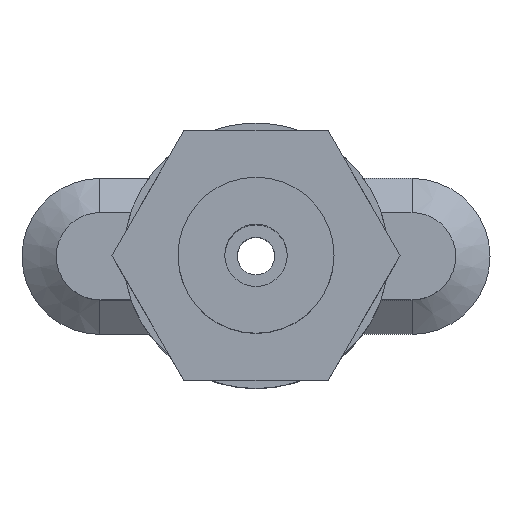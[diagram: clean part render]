
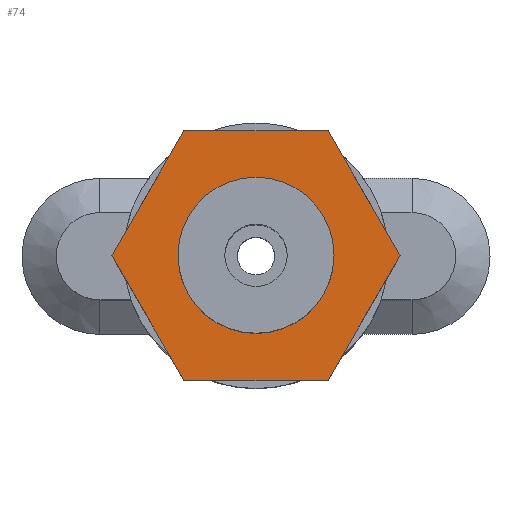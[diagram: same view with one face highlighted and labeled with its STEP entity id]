
A CAD part, top view. The second image highlights one B-rep face of the part: STEP entity #74.
In plain terms, the highlighted planar face has unit normal (0, 0, 1).
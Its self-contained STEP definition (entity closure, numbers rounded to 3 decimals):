
#61 = ORIENTED_EDGE ( 'NONE', *, *, #1548, .T. ) ;
#74 = ADVANCED_FACE ( 'NONE', ( #170, #912 ), #902, .T. ) ;
#91 = CARTESIAN_POINT ( 'NONE',  ( 2.309, 4., 0. ) ) ;
#109 = VECTOR ( 'NONE', #1404, 1000. ) ;
#167 = LINE ( 'NONE', #377, #545 ) ;
#170 = FACE_OUTER_BOUND ( 'NONE', #439, .T. ) ;
#214 = CARTESIAN_POINT ( 'NONE',  ( -2.309, -4., 0. ) ) ;
#258 = DIRECTION ( 'NONE',  ( 0., 0., -1. ) ) ;
#261 = CARTESIAN_POINT ( 'NONE',  ( 0., 0., 0. ) ) ;
#267 = CARTESIAN_POINT ( 'NONE',  ( -2.309, 4., 0. ) ) ;
#312 = ORIENTED_EDGE ( 'NONE', *, *, #393, .T. ) ;
#330 = CIRCLE ( 'NONE', #1302, 2.5 ) ;
#345 = DIRECTION ( 'NONE',  ( -1., 0., 0. ) ) ;
#377 = CARTESIAN_POINT ( 'NONE',  ( 2.309, -4., 0. ) ) ;
#393 = EDGE_CURVE ( 'NONE', #1029, #1363, #167, .T. ) ;
#410 = LINE ( 'NONE', #1479, #714 ) ;
#439 = EDGE_LOOP ( 'NONE', ( #718, #1649, #1310, #997, #312, #1596 ) ) ;
#480 = DIRECTION ( 'NONE',  ( 0.5, 0.866, 0. ) ) ;
#508 = DIRECTION ( 'NONE',  ( 0.5, -0.866, 0. ) ) ;
#536 = VERTEX_POINT ( 'NONE', #214 ) ;
#545 = VECTOR ( 'NONE', #480, 1000. ) ;
#552 = EDGE_CURVE ( 'NONE', #1582, #536, #791, .T. ) ;
#561 = VERTEX_POINT ( 'NONE', #1236 ) ;
#580 = EDGE_CURVE ( 'NONE', #561, #817, #330, .T. ) ;
#607 = VECTOR ( 'NONE', #1630, 1000. ) ;
#610 = CARTESIAN_POINT ( 'NONE',  ( 2.309, 4., 0. ) ) ;
#714 = VECTOR ( 'NONE', #1593, 1000. ) ;
#718 = ORIENTED_EDGE ( 'NONE', *, *, #741, .T. ) ;
#741 = EDGE_CURVE ( 'NONE', #848, #1261, #1015, .T. ) ;
#791 = LINE ( 'NONE', #1335, #1654 ) ;
#794 = ORIENTED_EDGE ( 'NONE', *, *, #580, .T. ) ;
#817 = VERTEX_POINT ( 'NONE', #1620 ) ;
#821 = CARTESIAN_POINT ( 'NONE',  ( 2.5, 0., 0. ) ) ;
#833 = LINE ( 'NONE', #1028, #109 ) ;
#848 = VERTEX_POINT ( 'NONE', #610 ) ;
#890 = DIRECTION ( 'NONE',  ( 0., 0., -1. ) ) ;
#900 = DIRECTION ( 'NONE',  ( 0., 1., 0. ) ) ;
#902 = PLANE ( 'NONE',  #1185 ) ;
#912 = FACE_BOUND ( 'NONE', #1182, .T. ) ;
#917 = DIRECTION ( 'NONE',  ( 1., 0., 0. ) ) ;
#929 = LINE ( 'NONE', #1499, #607 ) ;
#932 = EDGE_CURVE ( 'NONE', #536, #1029, #833, .T. ) ;
#980 = CARTESIAN_POINT ( 'NONE',  ( 0., 0., 0. ) ) ;
#994 = CARTESIAN_POINT ( 'NONE',  ( -4.619, 0., 0. ) ) ;
#997 = ORIENTED_EDGE ( 'NONE', *, *, #932, .T. ) ;
#1015 = LINE ( 'NONE', #91, #1173 ) ;
#1028 = CARTESIAN_POINT ( 'NONE',  ( -2.309, -4., 0. ) ) ;
#1029 = VERTEX_POINT ( 'NONE', #1069 ) ;
#1061 = EDGE_CURVE ( 'NONE', #1363, #848, #410, .T. ) ;
#1069 = CARTESIAN_POINT ( 'NONE',  ( 2.309, -4., 0. ) ) ;
#1173 = VECTOR ( 'NONE', #345, 1000. ) ;
#1175 = CIRCLE ( 'NONE', #1486, 2.5 ) ;
#1182 = EDGE_LOOP ( 'NONE', ( #61, #794 ) ) ;
#1185 = AXIS2_PLACEMENT_3D ( 'NONE', #821, #1198, #917 ) ;
#1198 = DIRECTION ( 'NONE',  ( 0., 0., 1. ) ) ;
#1236 = CARTESIAN_POINT ( 'NONE',  ( 0., -2.5, 0. ) ) ;
#1261 = VERTEX_POINT ( 'NONE', #267 ) ;
#1302 = AXIS2_PLACEMENT_3D ( 'NONE', #980, #890, #900 ) ;
#1310 = ORIENTED_EDGE ( 'NONE', *, *, #552, .T. ) ;
#1335 = CARTESIAN_POINT ( 'NONE',  ( -4.619, 0., 0. ) ) ;
#1362 = DIRECTION ( 'NONE',  ( 0., 1., 0. ) ) ;
#1363 = VERTEX_POINT ( 'NONE', #1382 ) ;
#1382 = CARTESIAN_POINT ( 'NONE',  ( 4.619, 0., 0. ) ) ;
#1404 = DIRECTION ( 'NONE',  ( 1., 0., 0. ) ) ;
#1477 = EDGE_CURVE ( 'NONE', #1261, #1582, #929, .T. ) ;
#1479 = CARTESIAN_POINT ( 'NONE',  ( 4.619, 0., 0. ) ) ;
#1486 = AXIS2_PLACEMENT_3D ( 'NONE', #261, #258, #1362 ) ;
#1499 = CARTESIAN_POINT ( 'NONE',  ( -2.309, 4., 0. ) ) ;
#1548 = EDGE_CURVE ( 'NONE', #817, #561, #1175, .T. ) ;
#1582 = VERTEX_POINT ( 'NONE', #994 ) ;
#1593 = DIRECTION ( 'NONE',  ( -0.5, 0.866, 0. ) ) ;
#1596 = ORIENTED_EDGE ( 'NONE', *, *, #1061, .T. ) ;
#1620 = CARTESIAN_POINT ( 'NONE',  ( 0., 2.5, 0. ) ) ;
#1630 = DIRECTION ( 'NONE',  ( -0.5, -0.866, 0. ) ) ;
#1649 = ORIENTED_EDGE ( 'NONE', *, *, #1477, .T. ) ;
#1654 = VECTOR ( 'NONE', #508, 1000. ) ;
